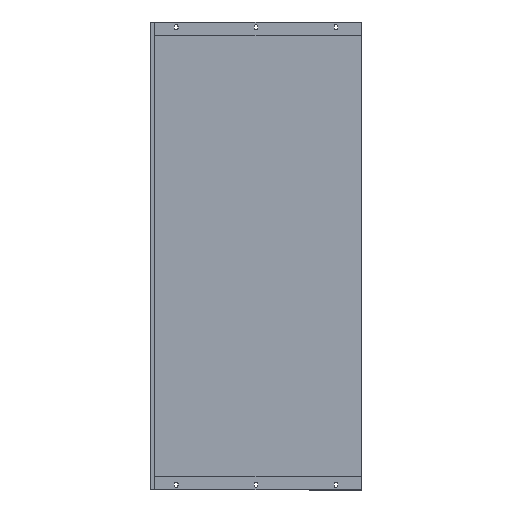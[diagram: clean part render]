
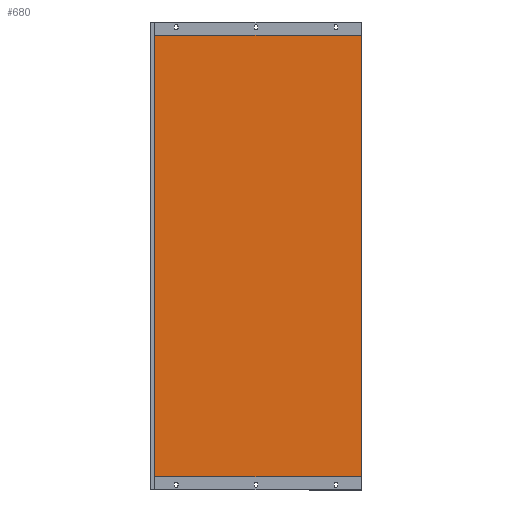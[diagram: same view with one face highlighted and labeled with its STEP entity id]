
A CAD part, front view. The second image highlights one B-rep face of the part: STEP entity #680.
In plain terms, the highlighted planar face has unit normal (0, -1, 0).
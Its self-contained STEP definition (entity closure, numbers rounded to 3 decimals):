
#9 = CARTESIAN_POINT ( 'NONE',  ( 388.6, 61.1, 854. ) ) ;
#31 = LINE ( 'NONE', #1245, #467 ) ;
#190 = EDGE_CURVE ( 'NONE', #931, #1699, #1499, .T. ) ;
#307 = DIRECTION ( 'NONE',  ( 0., 0., -1. ) ) ;
#323 = ORIENTED_EDGE ( 'NONE', *, *, #565, .F. ) ;
#397 = DIRECTION ( 'NONE',  ( 0., 1., 0. ) ) ;
#444 = CARTESIAN_POINT ( 'NONE',  ( -6.6, 61.1, 879. ) ) ;
#448 = ORIENTED_EDGE ( 'NONE', *, *, #190, .T. ) ;
#467 = VECTOR ( 'NONE', #586, 1000. ) ;
#486 = AXIS2_PLACEMENT_3D ( 'NONE', #675, #397, #1211 ) ;
#538 = PLANE ( 'NONE',  #486 ) ;
#565 = EDGE_CURVE ( 'NONE', #1272, #1699, #1276, .T. ) ;
#575 = DIRECTION ( 'NONE',  ( 1., 0., 0. ) ) ;
#586 = DIRECTION ( 'NONE',  ( -1., 0., 0. ) ) ;
#619 = EDGE_LOOP ( 'NONE', ( #323, #1559, #1675, #448 ) ) ;
#650 = DIRECTION ( 'NONE',  ( 0., 0., -1. ) ) ;
#667 = FACE_OUTER_BOUND ( 'NONE', #619, .T. ) ;
#675 = CARTESIAN_POINT ( 'NONE',  ( -8., 61.1, 879. ) ) ;
#680 = ADVANCED_FACE ( 'NONE', ( #667 ), #538, .F. ) ;
#851 = CARTESIAN_POINT ( 'NONE',  ( -6.6, 61.1, 25. ) ) ;
#931 = VERTEX_POINT ( 'NONE', #851 ) ;
#1008 = EDGE_CURVE ( 'NONE', #1663, #931, #1398, .T. ) ;
#1162 = CARTESIAN_POINT ( 'NONE',  ( 388.6, 61.1, 879. ) ) ;
#1211 = DIRECTION ( 'NONE',  ( 0., 0., 1. ) ) ;
#1245 = CARTESIAN_POINT ( 'NONE',  ( 0., 61.1, 854. ) ) ;
#1272 = VERTEX_POINT ( 'NONE', #9 ) ;
#1276 = LINE ( 'NONE', #1162, #1686 ) ;
#1385 = CARTESIAN_POINT ( 'NONE',  ( 388.6, 61.1, 25. ) ) ;
#1394 = CARTESIAN_POINT ( 'NONE',  ( -6.6, 61.1, 854. ) ) ;
#1396 = CARTESIAN_POINT ( 'NONE',  ( 0., 61.1, 25. ) ) ;
#1398 = LINE ( 'NONE', #444, #1761 ) ;
#1499 = LINE ( 'NONE', #1396, #1581 ) ;
#1559 = ORIENTED_EDGE ( 'NONE', *, *, #1660, .T. ) ;
#1581 = VECTOR ( 'NONE', #575, 1000. ) ;
#1660 = EDGE_CURVE ( 'NONE', #1272, #1663, #31, .T. ) ;
#1663 = VERTEX_POINT ( 'NONE', #1394 ) ;
#1675 = ORIENTED_EDGE ( 'NONE', *, *, #1008, .T. ) ;
#1686 = VECTOR ( 'NONE', #650, 1000. ) ;
#1699 = VERTEX_POINT ( 'NONE', #1385 ) ;
#1761 = VECTOR ( 'NONE', #307, 1000. ) ;
